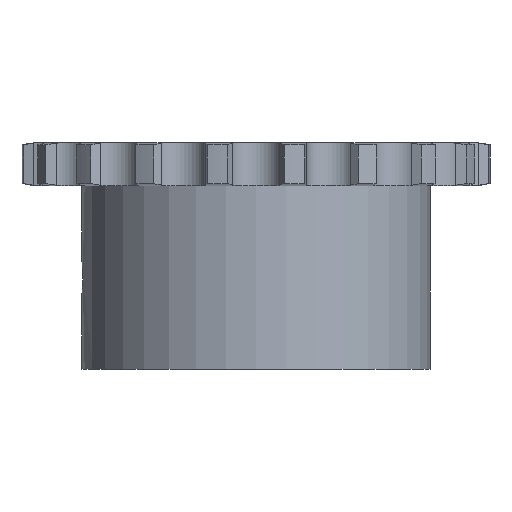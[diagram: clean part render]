
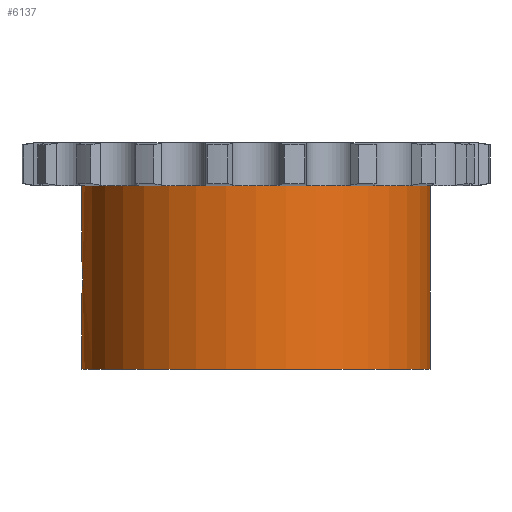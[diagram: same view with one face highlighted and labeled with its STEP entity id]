
A CAD part, front view. The second image highlights one B-rep face of the part: STEP entity #6137.
In plain terms, the highlighted cylindrical face has radius 21.5 mm (diameter 43 mm), a partial arc.
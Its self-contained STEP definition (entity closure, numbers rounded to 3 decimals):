
#1297=CARTESIAN_POINT('',(0.,0.,-2.65));
#1298=DIRECTION('',(0.,0.,1.));
#1299=DIRECTION('',(-1.,0.,0.));
#1300=AXIS2_PLACEMENT_3D('',#1297,#1298,#1299);
#3084=CARTESIAN_POINT('',(-21.5,0.,
-12.));
#3105=DIRECTION('',(0.,0.,1.));
#3106=VECTOR('',#3105,22.7);
#3107=CARTESIAN_POINT('',(21.5,0.,-25.35));
#3108=LINE('',#3107,#3106);
#3217=CARTESIAN_POINT('',(0.,0.,-25.35));
#3218=DIRECTION('',(0.,0.,-1.));
#3219=DIRECTION('',(1.,0.,0.));
#3220=AXIS2_PLACEMENT_3D('',#3217,#3218,#3219);
#3246=CARTESIAN_POINT('',(-21.5,0.,
-12.));
#3247=CARTESIAN_POINT('',(-21.5,-0.12,
-12.));
#3248=CARTESIAN_POINT('',(-21.498,-0.355,
-12.02));
#3249=CARTESIAN_POINT('',(-21.489,-0.706,
-12.113));
#3250=CARTESIAN_POINT('',(-21.476,-1.03,
-12.264));
#3251=CARTESIAN_POINT('',(-21.46,-1.321,
-12.466));
#3252=CARTESIAN_POINT('',(-21.443,-1.573,
-12.717));
#3253=CARTESIAN_POINT('',(-21.427,-1.778,
-13.009));
#3254=CARTESIAN_POINT('',(-21.414,-1.927,
-13.331));
#3255=CARTESIAN_POINT('',(-21.405,-2.015,
-13.668));
#3256=CARTESIAN_POINT('',(-21.404,-2.033,
-13.889));
#3257=CARTESIAN_POINT('',(-21.404,-2.033,
-14.));
#3262=DIRECTION('',(0.,0.,1.));
#3263=VECTOR('',#3262,9.35);
#3264=CARTESIAN_POINT('',(-21.5,0.,
-12.));
#3265=LINE('',#3264,#3263);
#3269=DIRECTION('',(0.,0.,1.));
#3270=VECTOR('',#3269,9.35);
#3271=CARTESIAN_POINT('',(-21.5,0.,-25.35));
#3272=LINE('',#3271,#3270);
#3276=CARTESIAN_POINT('',(-21.404,-2.033,
-14.));
#3277=CARTESIAN_POINT('',(-21.404,-2.033,
-14.111));
#3278=CARTESIAN_POINT('',(-21.405,-2.015,
-14.331));
#3279=CARTESIAN_POINT('',(-21.414,-1.927,
-14.668));
#3280=CARTESIAN_POINT('',(-21.427,-1.779,
-14.989));
#3281=CARTESIAN_POINT('',(-21.443,-1.574,
-15.282));
#3282=CARTESIAN_POINT('',(-21.46,-1.322,
-15.533));
#3283=CARTESIAN_POINT('',(-21.476,-1.03,
-15.736));
#3284=CARTESIAN_POINT('',(-21.489,-0.706,
-15.887));
#3285=CARTESIAN_POINT('',(-21.498,-0.356,
-15.98));
#3286=CARTESIAN_POINT('',(-21.5,-0.12,
-16.));
#3287=CARTESIAN_POINT('',(-21.5,0.,
-16.));
#3643=CARTESIAN_POINT('',(-21.5,0.,-25.35));
#3644=CARTESIAN_POINT('',(21.5,0.,-25.35));
#3645=VERTEX_POINT('',#3643);
#3646=VERTEX_POINT('',#3644);
#3647=CARTESIAN_POINT('',(21.5,0.,-2.65));
#3648=VERTEX_POINT('',#3647);
#3649=CARTESIAN_POINT('',(-21.5,0.,-2.65));
#3650=VERTEX_POINT('',#3649);
#3850=VERTEX_POINT('',#3084);
#3853=VERTEX_POINT('',#3257);
#3855=VERTEX_POINT('',#3287);
#6121=CARTESIAN_POINT('',(0.,0.,2.65));
#6122=DIRECTION('',(0.,0.,1.));
#6123=DIRECTION('',(1.,0.,0.));
#6124=AXIS2_PLACEMENT_3D('',#6121,#6122,#6123);
#6125=CYLINDRICAL_SURFACE('',#6124,21.5);
#6127=ORIENTED_EDGE('',*,*,#6126,.F.);
#6128=ORIENTED_EDGE('',*,*,#5871,.T.);
#6129=ORIENTED_EDGE('',*,*,#5178,.T.);
#6130=ORIENTED_EDGE('',*,*,#5868,.F.);
#6131=ORIENTED_EDGE('',*,*,#6107,.T.);
#6132=ORIENTED_EDGE('',*,*,#5864,.T.);
#6134=ORIENTED_EDGE('',*,*,#6133,.F.);
#6135=EDGE_LOOP('',(#6127,#6128,#6129,#6130,#6131,#6132,#6134));
#6136=FACE_OUTER_BOUND('',#6135,.F.);
#6137=ADVANCED_FACE('',(#6136),#6125,.T.);
#1301=CIRCLE('',#1300,21.5);
#3221=CIRCLE('',#3220,21.5);
#3258=B_SPLINE_CURVE_WITH_KNOTS('',3,(#3246,#3247,#3248,#3249,#3250,#3251,#3252,
#3253,#3254,#3255,#3256,#3257),.UNSPECIFIED.,.F.,.F.,(4,1,1,1,1,1,1,1,1,4),
(0.,0.111,0.222,0.333,0.444,
0.556,0.667,0.778,0.889,1.),
.UNSPECIFIED.);
#3288=B_SPLINE_CURVE_WITH_KNOTS('',3,(#3276,#3277,#3278,#3279,#3280,#3281,#3282,
#3283,#3284,#3285,#3286,#3287),.UNSPECIFIED.,.F.,.F.,(4,1,1,1,1,1,1,1,1,4),
(0.,0.111,0.222,0.333,0.444,
0.556,0.667,0.778,0.889,1.),
.UNSPECIFIED.);
#5178=EDGE_CURVE('',#3650,#3648,#1301,.T.);
#5864=EDGE_CURVE('',#3645,#3855,#3272,.T.);
#5868=EDGE_CURVE('',#3646,#3648,#3108,.T.);
#5871=EDGE_CURVE('',#3850,#3650,#3265,.T.);
#6107=EDGE_CURVE('',#3646,#3645,#3221,.T.);
#6126=EDGE_CURVE('',#3850,#3853,#3258,.T.);
#6133=EDGE_CURVE('',#3853,#3855,#3288,.T.);
